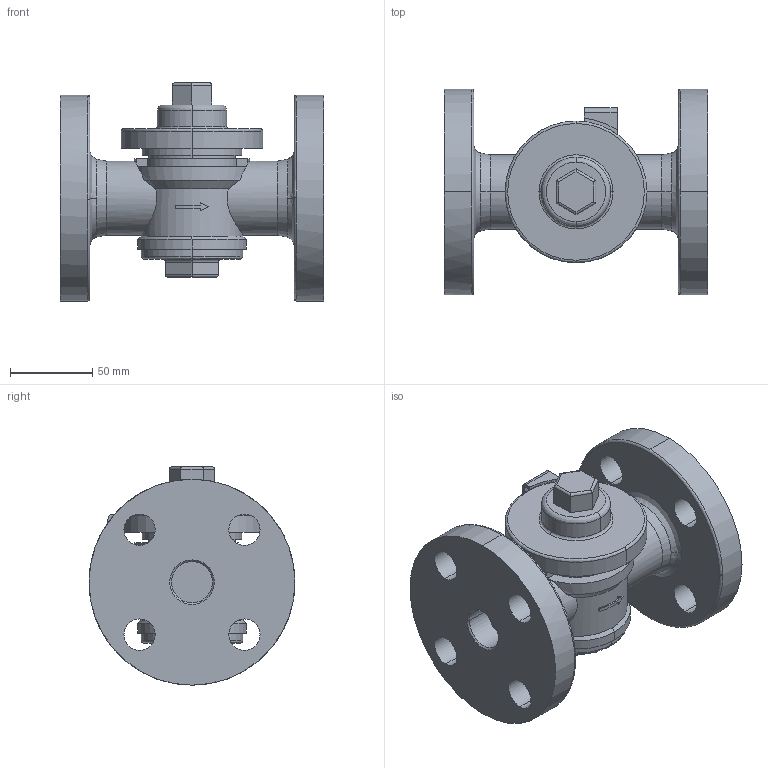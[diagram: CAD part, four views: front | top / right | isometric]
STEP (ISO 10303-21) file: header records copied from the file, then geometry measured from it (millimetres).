
FILE_DESCRIPTION( (''), '2;1');
FILE_NAME ('PC1027.12188.TS-8 25A_1029.stp','2025-07-31T16:19:23',(''),(''),'spGate 20.6.3 (****-****-****-****)','','');
FILE_SCHEMA (('AUTOMOTIVE_DESIGN'));
Length unit declared in the file: millimetre
Products named in the file (2): Assembly; TS-8 25A
Assembly tree (1 placements, depth 2):
  Assembly
    TS-8 25A
Bounding box: 160 x 125 x 132.5 mm (x, y, z)
Volume: 820417.1 mm3; surface area: 109374.1 mm2
Topology: 1 solids, 1 shells, 145 faces, 363 edges, 232 vertices
Faces by surface type: cylinder 70, plane 46, bspline 29
Entity records: 7908 total; most frequent: CARTESIAN_POINT 1737, ORIENTED_EDGE 726, DIRECTION 622, COLOUR_RGB 509, PRESENTATION_STYLE_ASSIGNMENT 509, STYLED_ITEM 509, EDGE_CURVE 363, DRAUGHTING_PRE_DEFINED_CURVE_FONT 363
